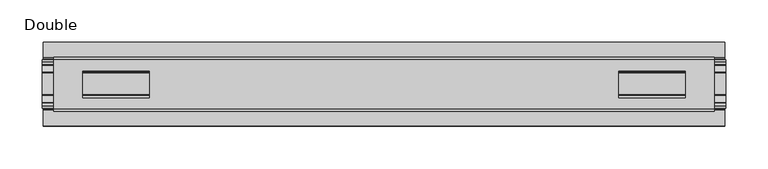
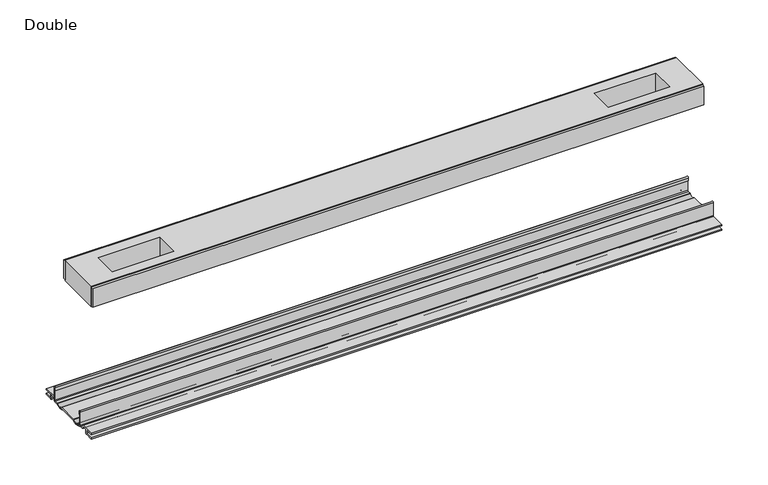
"""IFC4 building model written with IfcOpenShell, lengths in millimetres: proxy geometry, Frame-Teknion-FHCRA-Horizontal_Rail-R2022 : Double."""

from ifc_helpers import new_model, si_unit, point, frame, frame_2d, origin, place, context, project, spatial, polyline, circle_curve, trimmed, segment, composite_curve, outline, extrude, source, transform, mapped, element, save


def double_13daedb4(model_context):
    return source(origin(), model_context, "Body", "SweptSolid", [
        extrude(outline(polyline([(392.2993419, -29.0068005), (392.2993419, -32.1817997), (-392.2993419, -32.1817997), (-392.2993419, -29.0068005), (392.2993419, -29.0068005)])), frame((0.0, 0.0, 149.8401622), z_axis=(0.0, 0.0, 1.0), x_axis=(1.0, 0.0, 0.0)), (0.0, 0.0, 1.0), 25.3999939),
        extrude(outline(polyline([(392.2993419, 32.1817997), (392.2993419, 29.0068005), (-392.2993419, 29.0068005), (-392.2993419, 32.1817997), (392.2993419, 32.1817997)])), frame((0.0, 0.0, 149.8401622), z_axis=(0.0, 0.0, 1.0), x_axis=(1.0, 0.0, 0.0)), (0.0, 0.0, 1.0), 25.3999939),
        extrude(outline(polyline([(392.2993419, 29.0068005), (392.2993419, -29.0068005), (-392.2993419, -29.0068005), (-392.2993419, 29.0068005), (392.2993419, 29.0068005)]), holes=[polyline([(357.8823293, 15.1130038), (278.8375175, 15.1130038), (278.8375175, -15.875003), (357.8823293, -15.875003), (357.8823293, 15.1130038)]), polyline([(-357.8823293, 15.1130038), (-357.8823293, -15.875003), (-278.8375175, -15.875003), (-278.8375175, 15.1130038), (-357.8823293, 15.1130038)])]), frame((0.0, 0.0, 148.4185847), z_axis=(0.0, 0.0, 1.0), x_axis=(1.0, 0.0, 0.0)), (0.0, 0.0, 1.0), 27.9999988),
        extrude(outline(composite_curve([segment(polyline([(-28.8162961, -7.7516037), (-28.8162961, 9.8607558)]), True, "CONTINUOUS"), segment(trimmed(circle_curve(frame_2d((-27.5970982, 9.8607558)), 1.2191979), [point((-28.8162961, 9.8607558))], [point((-26.3779003, 9.8607558))], False, "CARTESIAN"), True, "CONTINUOUS"), segment(polyline([(-26.3779003, 9.8607558), (-26.3779003, 5.9999563), (-27.6580769, 5.9999563), (-27.6580769, -7.7516037)]), True, "CONTINUOUS"), segment(trimmed(circle_curve(frame_2d((-26.6420561, -7.7516037)), 1.0160208), [point((-27.6580769, -7.7516037))], [point((-26.6485732, -8.7676036))], True, "CARTESIAN"), True, "CONTINUOUS"), segment(polyline([(-26.6485732, -8.7676036), (-22.7056226, -8.7676036), (-21.7922609, -8.968753)]), True, "CONTINUOUS"), segment(trimmed(circle_curve(frame_2d((-17.7673021, -6.1259382)), 4.9276657), [point((-21.7922609, -8.968753))], [point((-13.7423434, -8.968753))], True, "CARTESIAN"), True, "CONTINUOUS"), segment(polyline([(-13.7423434, -8.968753), (-12.8289726, -8.7676036), (13.2099722, -8.7676036), (14.123343, -8.968753)]), True, "CONTINUOUS"), segment(trimmed(circle_curve(frame_2d((18.1483018, -6.1259382)), 4.9276657), [point((14.123343, -8.968753))], [point((22.1732605, -8.968753))], True, "CARTESIAN"), True, "CONTINUOUS"), segment(polyline([(22.1732605, -8.968753), (23.0866222, -8.7676036), (27.0295728, -8.7676036)]), True, "CONTINUOUS"), segment(trimmed(circle_curve(frame_2d((27.0230557, -7.7516037)), 1.0160208), [point((27.0295728, -8.7676036))], [point((28.0390765, -7.7516037))], True, "CARTESIAN"), True, "CONTINUOUS"), segment(polyline([(28.0390765, -7.7516037), (28.0390765, 5.9999563), (26.7588999, 5.9999563), (26.7588999, 9.8607558)]), True, "CONTINUOUS"), segment(trimmed(circle_curve(frame_2d((27.9780978, 9.8607558)), 1.2191979), [point((26.7588999, 9.8607558))], [point((29.1972958, 9.8607558))], False, "CARTESIAN"), True, "CONTINUOUS"), segment(polyline([(29.1972958, 9.8607558), (29.1972958, -7.7516037)]), True, "CONTINUOUS"), segment(trimmed(circle_curve(frame_2d((27.0230557, -7.7516037)), 2.17424), [point((29.1972958, -7.7516037))], [point((27.0230557, -9.9258438))], False, "CARTESIAN"), True, "CONTINUOUS"), segment(polyline([(27.0230557, -9.9258438), (22.732069, -9.9258438)]), True, "CONTINUOUS"), segment(trimmed(circle_curve(frame_2d((18.1516545, -6.4800016)), 5.7318431), [point((22.732069, -9.9258438))], [point((13.57124, -9.9258438))], False, "CARTESIAN"), True, "CONTINUOUS"), segment(polyline([(13.57124, -9.9258438), (-13.1902404, -9.9258438)]), True, "CONTINUOUS"), segment(trimmed(circle_curve(frame_2d((-17.7706549, -6.4800016)), 5.7318431), [point((-13.1902404, -9.9258438))], [point((-22.3510694, -9.9258438))], False, "CARTESIAN"), True, "CONTINUOUS"), segment(polyline([(-22.3510694, -9.9258438), (-26.6420561, -9.9258438)]), True, "CONTINUOUS"), segment(trimmed(circle_curve(frame_2d((-26.6420561, -7.7516037)), 2.17424), [point((-26.6420561, -9.9258438))], [point((-28.8162961, -7.7516037))], False, "CARTESIAN"), True, "CONTINUOUS")], self_intersect=False)), frame((-406.3582328, 0.0, 0.0), z_axis=(1.0, 0.0, 0.0), x_axis=(0.0, 1.0, 0.0)), (0.0, 0.0, 1.0), 812.7164656),
        extrude(outline(composite_curve([segment(polyline([(-50.2668422, -13.9898438), (-50.2240211, -12.3388438), (-39.7827507, -12.3388438), (-39.7827507, -7.766844), (-50.2240211, -7.766844), (-50.2668422, -6.1158439), (-31.1784975, -6.1158439)]), True, "CONTINUOUS"), segment(trimmed(circle_curve(frame_2d((-31.1784975, -7.6398436)), 1.5239997), [point((-31.1784975, -6.1158439))], [point((-29.6544978, -7.6398436))], False, "CARTESIAN"), True, "CONTINUOUS"), segment(polyline([(-29.6544978, -7.6398436), (-29.6544978, -9.9258438), (-23.1058344, -9.9258438)]), True, "CONTINUOUS"), segment(trimmed(circle_curve(frame_2d((-17.7673021, -5.2268471)), 7.1119966), [point((-23.1058344, -9.9258438))], [point((-12.4287699, -9.9258438))], True, "CARTESIAN"), True, "CONTINUOUS"), segment(polyline([(-12.4287699, -9.9258438), (12.8097695, -9.9258438)]), True, "CONTINUOUS"), segment(trimmed(circle_curve(frame_2d((18.1483018, -5.2268471)), 7.1119966), [point((12.8097695, -9.9258438))], [point((23.486834, -9.9258438))], True, "CARTESIAN"), True, "CONTINUOUS"), segment(polyline([(23.486834, -9.9258438), (30.0354975, -9.9258438), (30.0354975, -7.7656583)]), True, "CONTINUOUS"), segment(trimmed(circle_curve(frame_2d((31.6864982, -7.7656583)), 1.6510007), [point((30.0354975, -7.7656583))], [point((31.6239218, -6.1158439))], False, "CARTESIAN"), True, "CONTINUOUS"), segment(polyline([(31.6239218, -6.1158439), (50.00625, -6.1158439), (50.00625, -7.766844), (40.1637503, -7.766844), (40.1637503, -12.3388438), (50.00625, -12.3388438), (50.00625, -13.9898438), (40.0367518, -13.9898438)]), True, "CONTINUOUS"), segment(trimmed(circle_curve(frame_2d((40.0367518, -12.4658438)), 1.524), [point((40.0367518, -13.9898438))], [point((38.5127519, -12.4658438))], False, "CARTESIAN"), True, "CONTINUOUS"), segment(polyline([(38.5127519, -12.4658438), (38.5127519, -7.766844), (31.686497, -7.766844), (31.686497, -10.0528438)]), True, "CONTINUOUS"), segment(trimmed(circle_curve(frame_2d((30.1624971, -10.0528438)), 1.524), [point((31.686497, -10.0528438))], [point((30.1624971, -11.5768438))], False, "CARTESIAN"), True, "CONTINUOUS"), segment(polyline([(30.1624971, -11.5768438), (23.6563549, -11.5768438)]), True, "CONTINUOUS"), segment(trimmed(circle_curve(frame_2d((18.1483018, -6.4968436)), 7.4930002), [point((23.6563549, -11.5768438))], [point((12.8904968, -11.8354331))], False, "CARTESIAN"), True, "CONTINUOUS"), segment(polyline([(12.8904968, -11.8354331), (-12.5094972, -11.8354331)]), True, "CONTINUOUS"), segment(trimmed(circle_curve(frame_2d((-17.7673021, -6.4968436)), 7.4930002), [point((-12.5094972, -11.8354331))], [point((-23.2753553, -11.5768438))], False, "CARTESIAN"), True, "CONTINUOUS"), segment(polyline([(-23.2753553, -11.5768438), (-29.7814974, -11.5768438)]), True, "CONTINUOUS"), segment(trimmed(circle_curve(frame_2d((-29.7814974, -10.0528438)), 1.524), [point((-29.7814974, -11.5768438))], [point((-31.3054974, -10.0528438))], False, "CARTESIAN"), True, "CONTINUOUS"), segment(polyline([(-31.3054974, -10.0528438), (-31.3054974, -7.766844), (-38.1317522, -7.766844), (-38.1317522, -12.4658438)]), True, "CONTINUOUS"), segment(trimmed(circle_curve(frame_2d((-39.6557522, -12.4658438)), 1.524), [point((-38.1317522, -12.4658438))], [point((-39.6557522, -13.9898438))], False, "CARTESIAN"), True, "CONTINUOUS"), segment(polyline([(-39.6557522, -13.9898438), (-50.2668422, -13.9898438)]), True, "CONTINUOUS")], self_intersect=False)), frame((-404.7072328, 0.0, 0.0), z_axis=(1.0, 0.0, 0.0), x_axis=(0.0, 1.0, 0.0)), (0.0, 0.0, 1.0), 809.4144656),
    ])


if __name__ == "__main__":
    model = new_model("IFC4")
    model_context = context("Model", 3, world=origin())
    ifc_project = project(units=[si_unit("LENGTHUNIT", "METRE", prefix="MILLI")], contexts=[model_context])
    site = spatial("IfcSite", under=ifc_project)
    building = spatial("IfcBuilding", under=site)
    placement = place(None, origin())
    double_shape = double_13daedb4(model_context)
    element("IfcBuildingElementProxy", 1, Name="Frame-Teknion-FHCRA-Horizontal_Rail-R2022 : Double", ObjectType="Frame-Teknion-FHCRA-Horizontal_Rail-R2022 : Double", at=placement, inside=building, context=model_context, shape_type="MappedRepresentation", body=[
        mapped(double_shape, transform((0.0, 0.0, 0.0), x_axis=(1.0, 0.0, 0.0), y_axis=(0.0, 1.0, 0.0), z_axis=(0.0, 0.0, 1.0))),
    ])
    save(model, "model.ifc")
